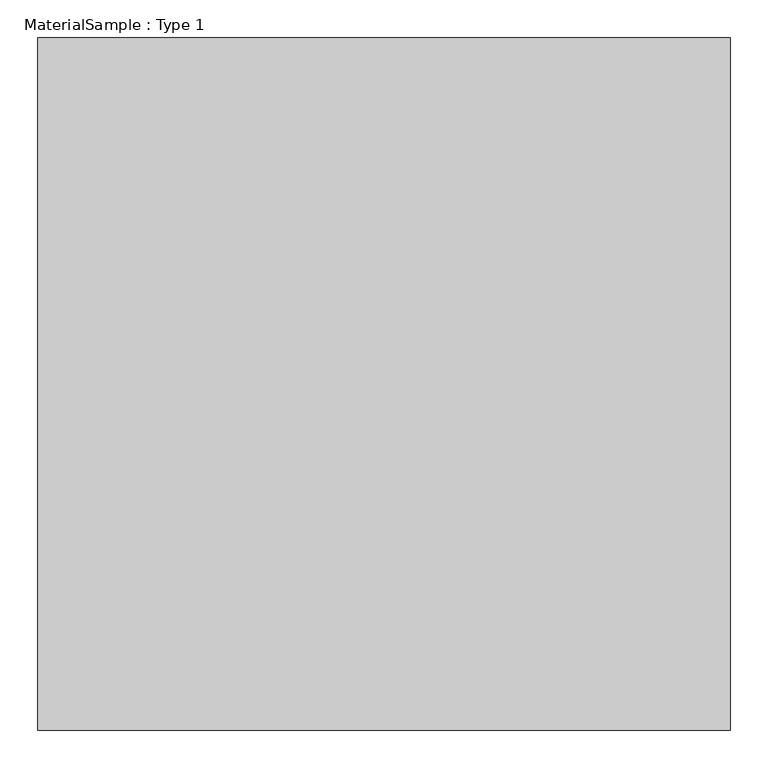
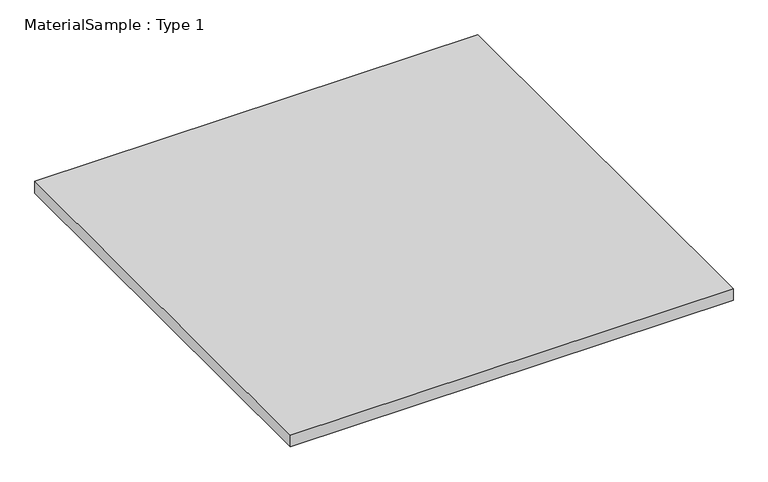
"""IFC4 building model written with IfcOpenShell, lengths in millimetres: proxy geometry, MaterialSample : Type 1."""

from ifc_helpers import new_model, si_unit, origin, origin_with_axes, place, context, project, spatial, polyline, outline, extrude, source, transform, mapped, element, save


def materialsample_type_1_19775645(model_context):
    return source(origin(), model_context, "Body", "SweptSolid", [
        extrude(outline(polyline([(914.4, 0.0), (0.0, 0.0), (0.0, 914.4), (914.4, 914.4), (914.4, 0.0)])), origin_with_axes(), (0.0, 0.0, 1.0), 25.4),
    ])


if __name__ == "__main__":
    model = new_model("IFC4")
    model_context = context("Model", 3, world=origin())
    ifc_project = project(units=[si_unit("LENGTHUNIT", "METRE", prefix="MILLI")], contexts=[model_context])
    site = spatial("IfcSite", under=ifc_project)
    building = spatial("IfcBuilding", under=site)
    placement = place(None, origin())
    materialsample_type_1_shape = materialsample_type_1_19775645(model_context)
    element("IfcBuildingElementProxy", 1, Name="MaterialSample : Type 1", ObjectType="MaterialSample : Type 1", at=placement, inside=building, context=model_context, shape_type="MappedRepresentation", body=[
        mapped(materialsample_type_1_shape, transform((0.0, 0.0, 0.0), x_axis=(1.0, 0.0, 0.0), y_axis=(0.0, 1.0, 0.0), z_axis=(0.0, 0.0, 1.0))),
    ])
    save(model, "model.ifc")
